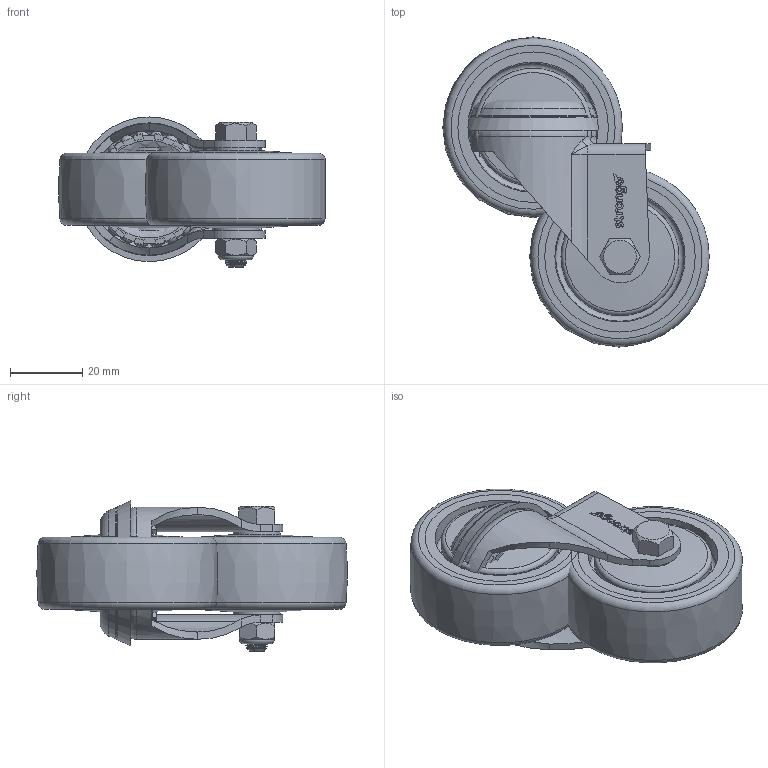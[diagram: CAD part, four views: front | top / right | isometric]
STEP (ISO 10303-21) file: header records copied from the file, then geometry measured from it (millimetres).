
FILE_DESCRIPTION(('STEP AP203'),'1');
FILE_NAME('E:/Pomoc/Strongo/344a39J050rZLC.stp',' ',(' '),(' '),'XStep 1.0',' ',' ');
FILE_SCHEMA(('CONFIG_CONTROL_DESIGN'));
Length unit declared in the file: metre
Products named in the file (3): Assembly73; Assembly58; Next assembly relationship
Bounding box: 73.63 x 85.76 x 41.5 mm (x, y, z)
Volume: 89072.7 mm3; surface area: 79329.7 mm2
Topology: 118 solids, 118 shells, 2386 faces, 6704 edges, 4416 vertices
Faces by surface type: plane 1856, cylinder 223, torus 123, sphere 96, bspline 39, cone 39, revolution 6, extrusion 4
Full cylindrical faces by diameter (mm): 1.038 x4, 2.007 x2, 5 x1, 6 x15, 6.3 x4, 6.5 x4, 10 x6, 10.5 x2, 13 x4, 14 x10, 14.2 x4, 18 x2, 18.5 x2, 22.4 x4, 23 x4, 23.9 x2, 26 x4, 30.5 x4, 32.5 x6, 36.287 x2, 36.5 x2, 41.6 x4
Entity records: 40828 total; most frequent: CARTESIAN_POINT 11133, ORIENTED_EDGE 6200, DIRECTION 5689, EDGE_CURVE 3100, VECTOR 2662, LINE 2660, VERTEX_POINT 2086, AXIS2_PLACEMENT_3D 1512
